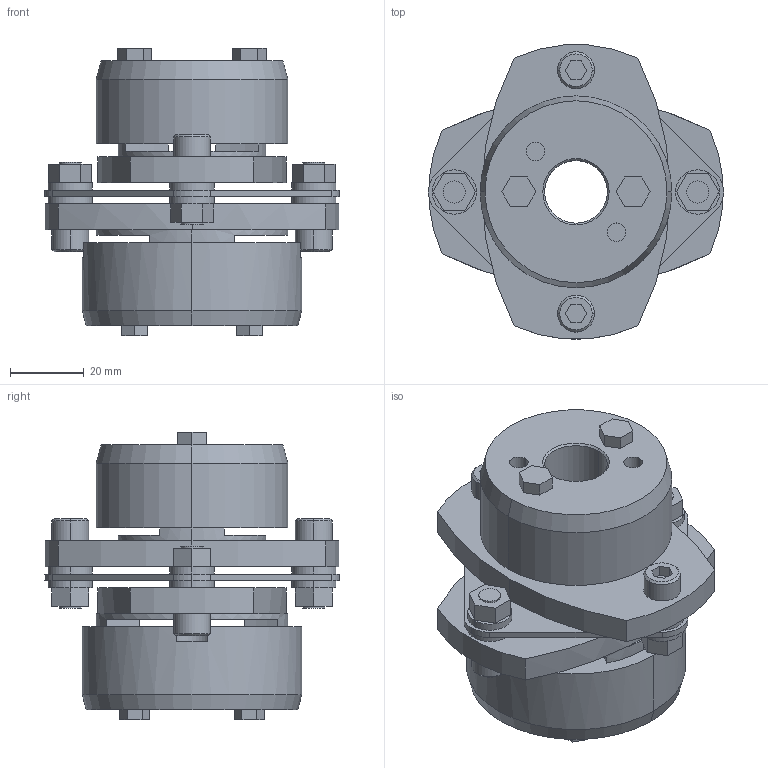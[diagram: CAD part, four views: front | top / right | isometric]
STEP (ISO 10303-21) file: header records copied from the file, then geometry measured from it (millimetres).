
FILE_DESCRIPTION((''),'2;1');
FILE_NAME('LCS-80T7-17×32.stp','2011-09-12T15:07:21',(''),(''),'AutoCAD STEP 2000i','AutoCAD 2000i',', , ');
FILE_SCHEMA(('CONFIG_CONTROL_DESIGN'));
Length unit declared in the file: millimetre
Products named in the file (11): LCS-80T7-17×32; 忣兜1; LC80T7-T032; LC80T7-T030; LC80T7-T028; LC80T7-T024; LC80T7-T022; LC80T7-T019; LC80T7-T017-1; LC80T7-T017; LCS80-ITA
Assembly tree (10 placements, depth 2):
  LCS-80T7-17×32
    忣兜1
    LC80T7-T032
    LC80T7-T030
    LC80T7-T028
    LC80T7-T024
    LC80T7-T022
    LC80T7-T019
    LC80T7-T017-1
    LC80T7-T017
    LCS80-ITA
Bounding box: 80 x 79.95 x 78.05 mm (x, y, z)
Volume: 142566.2 mm3; surface area: 42163.9 mm2
Topology: 1 solids, 1 shells, 239 faces, 588 edges, 384 vertices
Faces by surface type: plane 137, cylinder 82, cone 20
Entity records: 7353 total; most frequent: DIRECTION 1300, CARTESIAN_POINT 1222, ORIENTED_EDGE 1176, EDGE_CURVE 588, AXIS2_PLACEMENT_3D 462, VERTEX_POINT 384, VECTOR 376, LINE 376
